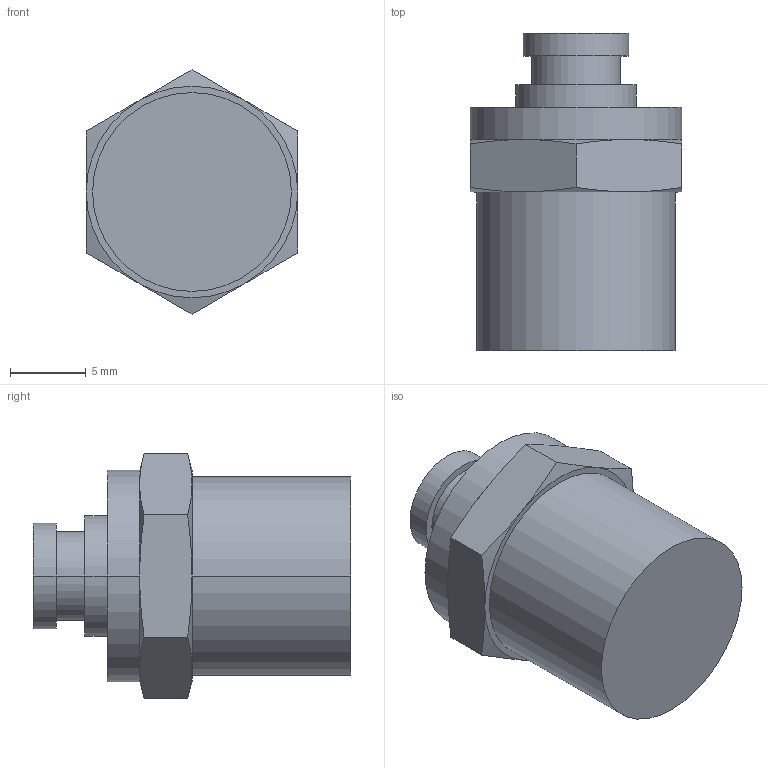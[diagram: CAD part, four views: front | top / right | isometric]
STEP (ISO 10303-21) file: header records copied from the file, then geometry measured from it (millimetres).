
FILE_DESCRIPTION( ( '' ), '1' );
FILE_NAME( 'G:/SMC狟婥/KQB2H23-02S.stp', '2023-03-07T02:21:49', ( '' ), ( '' ), ' ', ' ', ' ' );
FILE_SCHEMA( ( 'CONFIG_CONTROL_DESIGN' ) );
Length unit declared in the file: millimetre
Products named in the file (1): 1
Bounding box: 14 x 21 x 16.17 mm (x, y, z)
Volume: 2430.1 mm3; surface area: 1275.7 mm2
Topology: 1 solids, 1 shells, 37 faces, 76 edges, 46 vertices
Faces by surface type: plane 13, cylinder 12, cone 12
Entity records: 992 total; most frequent: CARTESIAN_POINT 208, DIRECTION 162, ORIENTED_EDGE 152, EDGE_CURVE 76, AXIS2_PLACEMENT_3D 72, VERTEX_POINT 46, EDGE_LOOP 42, ADVANCED_FACE 37
